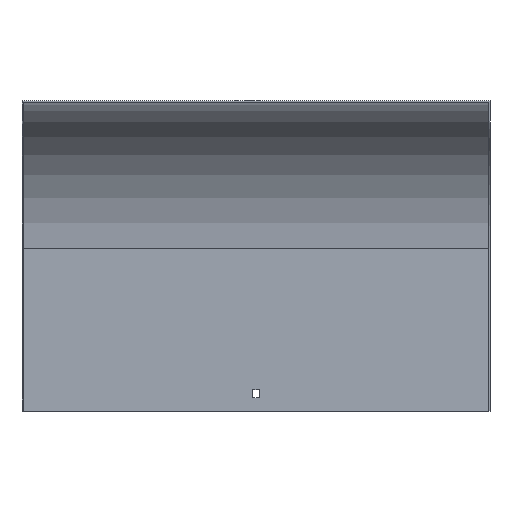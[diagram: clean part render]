
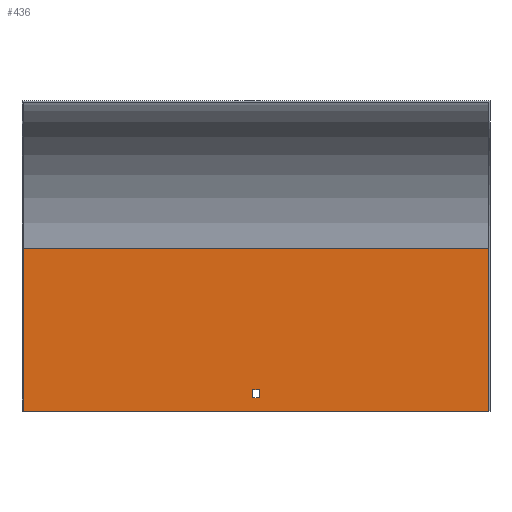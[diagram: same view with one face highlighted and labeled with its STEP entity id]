
A CAD part, top view. The second image highlights one B-rep face of the part: STEP entity #436.
In plain terms, the highlighted planar face has unit normal (0, 0, 1).
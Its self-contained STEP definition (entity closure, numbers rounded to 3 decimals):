
#8 = EDGE_LOOP ( 'NONE', ( #652, #92, #267, #428 ) ) ;
#13 = EDGE_CURVE ( 'NONE', #337, #820, #84, .T. ) ;
#34 = CARTESIAN_POINT ( 'NONE',  ( 201., -266., -265. ) ) ;
#39 = DIRECTION ( 'NONE',  ( 0., 1., 0. ) ) ;
#40 = EDGE_CURVE ( 'NONE', #161, #590, #438, .T. ) ;
#72 = CARTESIAN_POINT ( 'NONE',  ( 3., -126., -265. ) ) ;
#80 = VECTOR ( 'NONE', #361, 1000. ) ;
#84 = LINE ( 'NONE', #617, #599 ) ;
#92 = ORIENTED_EDGE ( 'NONE', *, *, #813, .F. ) ;
#95 = CARTESIAN_POINT ( 'NONE',  ( 201., -254.5, -265. ) ) ;
#98 = VERTEX_POINT ( 'NONE', #568 ) ;
#100 = LINE ( 'NONE', #34, #385 ) ;
#119 = AXIS2_PLACEMENT_3D ( 'NONE', #158, #501, #423 ) ;
#155 = EDGE_CURVE ( 'NONE', #803, #337, #575, .T. ) ;
#158 = CARTESIAN_POINT ( 'NONE',  ( 201., -126., -265. ) ) ;
#161 = VERTEX_POINT ( 'NONE', #504 ) ;
#169 = FACE_OUTER_BOUND ( 'NONE', #8, .T. ) ;
#208 = CARTESIAN_POINT ( 'NONE',  ( -3., -247.5, -265. ) ) ;
#216 = LINE ( 'NONE', #335, #360 ) ;
#237 = VECTOR ( 'NONE', #345, 1000. ) ;
#238 = LINE ( 'NONE', #95, #80 ) ;
#241 = CARTESIAN_POINT ( 'NONE',  ( 200., -266., -265. ) ) ;
#243 = FACE_BOUND ( 'NONE', #478, .T. ) ;
#249 = CARTESIAN_POINT ( 'NONE',  ( 3., -254.5, -265. ) ) ;
#263 = VERTEX_POINT ( 'NONE', #249 ) ;
#267 = ORIENTED_EDGE ( 'NONE', *, *, #294, .T. ) ;
#274 = DIRECTION ( 'NONE',  ( 0., 1., 0. ) ) ;
#294 = EDGE_CURVE ( 'NONE', #401, #161, #458, .T. ) ;
#300 = EDGE_CURVE ( 'NONE', #98, #590, #216, .T. ) ;
#303 = VECTOR ( 'NONE', #274, 1000. ) ;
#335 = CARTESIAN_POINT ( 'NONE',  ( -200., -126., -265. ) ) ;
#337 = VERTEX_POINT ( 'NONE', #208 ) ;
#345 = DIRECTION ( 'NONE',  ( 0., -1., 0. ) ) ;
#360 = VECTOR ( 'NONE', #806, 1000. ) ;
#361 = DIRECTION ( 'NONE',  ( -1., 0., 0. ) ) ;
#366 = CARTESIAN_POINT ( 'NONE',  ( -3., -254.5, -265. ) ) ;
#367 = DIRECTION ( 'NONE',  ( -1., 0., 0. ) ) ;
#385 = VECTOR ( 'NONE', #836, 1000. ) ;
#387 = ORIENTED_EDGE ( 'NONE', *, *, #155, .T. ) ;
#401 = VERTEX_POINT ( 'NONE', #241 ) ;
#423 = DIRECTION ( 'NONE',  ( 0., -1., 0. ) ) ;
#428 = ORIENTED_EDGE ( 'NONE', *, *, #40, .T. ) ;
#436 = ADVANCED_FACE ( 'NONE', ( #169, #243 ), #776, .T. ) ;
#438 = LINE ( 'NONE', #704, #570 ) ;
#447 = VECTOR ( 'NONE', #39, 1000. ) ;
#458 = LINE ( 'NONE', #724, #303 ) ;
#478 = EDGE_LOOP ( 'NONE', ( #603, #387, #834, #581 ) ) ;
#501 = DIRECTION ( 'NONE',  ( 0., 0., 1. ) ) ;
#504 = CARTESIAN_POINT ( 'NONE',  ( 200., -126., -265. ) ) ;
#542 = LINE ( 'NONE', #72, #237 ) ;
#568 = CARTESIAN_POINT ( 'NONE',  ( -200., -266., -265. ) ) ;
#570 = VECTOR ( 'NONE', #367, 1000. ) ;
#575 = LINE ( 'NONE', #847, #447 ) ;
#581 = ORIENTED_EDGE ( 'NONE', *, *, #622, .T. ) ;
#590 = VERTEX_POINT ( 'NONE', #794 ) ;
#599 = VECTOR ( 'NONE', #621, 1000. ) ;
#603 = ORIENTED_EDGE ( 'NONE', *, *, #801, .T. ) ;
#617 = CARTESIAN_POINT ( 'NONE',  ( 201., -247.5, -265. ) ) ;
#621 = DIRECTION ( 'NONE',  ( 1., 0., 0. ) ) ;
#622 = EDGE_CURVE ( 'NONE', #820, #263, #542, .T. ) ;
#652 = ORIENTED_EDGE ( 'NONE', *, *, #300, .F. ) ;
#692 = CARTESIAN_POINT ( 'NONE',  ( 3., -247.5, -265. ) ) ;
#704 = CARTESIAN_POINT ( 'NONE',  ( 201., -126., -265. ) ) ;
#724 = CARTESIAN_POINT ( 'NONE',  ( 200., -126., -265. ) ) ;
#776 = PLANE ( 'NONE',  #119 ) ;
#794 = CARTESIAN_POINT ( 'NONE',  ( -200., -126., -265. ) ) ;
#801 = EDGE_CURVE ( 'NONE', #263, #803, #238, .T. ) ;
#803 = VERTEX_POINT ( 'NONE', #366 ) ;
#806 = DIRECTION ( 'NONE',  ( 0., 1., 0. ) ) ;
#813 = EDGE_CURVE ( 'NONE', #401, #98, #100, .T. ) ;
#820 = VERTEX_POINT ( 'NONE', #692 ) ;
#834 = ORIENTED_EDGE ( 'NONE', *, *, #13, .T. ) ;
#836 = DIRECTION ( 'NONE',  ( -1., 0., 0. ) ) ;
#847 = CARTESIAN_POINT ( 'NONE',  ( -3., -126., -265. ) ) ;
